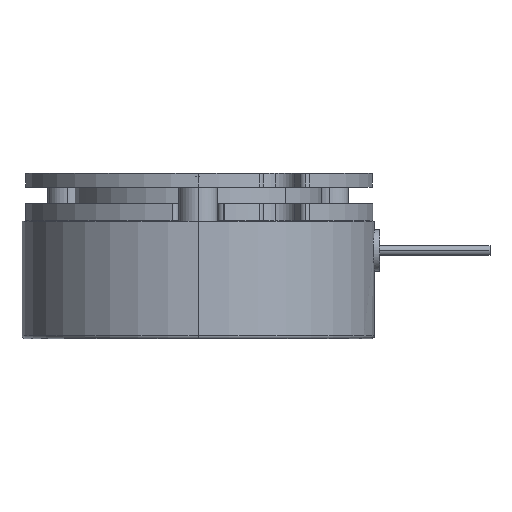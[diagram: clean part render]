
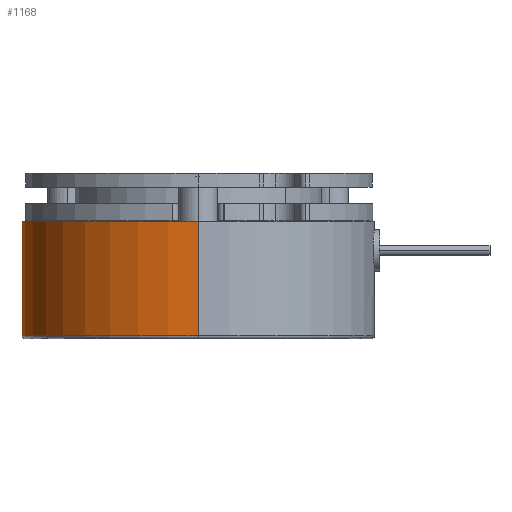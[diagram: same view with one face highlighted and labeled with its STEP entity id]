
A CAD part, left-side view. The second image highlights one B-rep face of the part: STEP entity #1168.
In plain terms, the highlighted cylindrical face has radius 32 mm (diameter 64 mm), a partial arc.
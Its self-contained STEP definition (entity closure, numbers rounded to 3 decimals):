
#295 = CARTESIAN_POINT ( 'NONE',  ( -32., 0., -27. ) ) ;
#408 = CARTESIAN_POINT ( 'NONE',  ( 32., 0., -27. ) ) ;
#477 = CARTESIAN_POINT ( 'NONE',  ( -32., 0., -6.2 ) ) ;
#742 = CARTESIAN_POINT ( 'NONE',  ( 32., 0., -6.2 ) ) ;
#1019 = CYLINDRICAL_SURFACE ( 'NONE', #1998, 32. ) ;
#1036 = FACE_OUTER_BOUND ( 'NONE', #4787, .T. ) ;
#1168 = ADVANCED_FACE ( 'NONE', ( #1036 ), #1019, .T. ) ;
#1516 = VECTOR ( 'NONE', #5417, 1000. ) ;
#1533 = LINE ( 'NONE', #5413, #1516 ) ;
#1602 = VECTOR ( 'NONE', #5458, 1000. ) ;
#1610 = LINE ( 'NONE', #5459, #1602 ) ;
#1617 = CIRCLE ( 'NONE', #2844, 32. ) ;
#1640 = CIRCLE ( 'NONE', #2847, 32. ) ;
#1998 = AXIS2_PLACEMENT_3D ( 'NONE', #2540, #2539, #2531 ) ;
#2531 = DIRECTION ( 'NONE',  ( -1., 0., 0. ) ) ;
#2539 = DIRECTION ( 'NONE',  ( 0., 0., -1. ) ) ;
#2540 = CARTESIAN_POINT ( 'NONE',  ( 0., 0., -6.2 ) ) ;
#2844 = AXIS2_PLACEMENT_3D ( 'NONE', #5372, #5469, #5460 ) ;
#2847 = AXIS2_PLACEMENT_3D ( 'NONE', #4966, #4980, #4954 ) ;
#4071 = VERTEX_POINT ( 'NONE', #477 ) ;
#4164 = VERTEX_POINT ( 'NONE', #408 ) ;
#4445 = VERTEX_POINT ( 'NONE', #295 ) ;
#4619 = VERTEX_POINT ( 'NONE', #742 ) ;
#4787 = EDGE_LOOP ( 'NONE', ( #7361, #7548, #7455, #7581 ) ) ;
#4954 = DIRECTION ( 'NONE',  ( 1., 0., 0. ) ) ;
#4966 = CARTESIAN_POINT ( 'NONE',  ( 0., 0., -27. ) ) ;
#4980 = DIRECTION ( 'NONE',  ( 0., 0., 1. ) ) ;
#5372 = CARTESIAN_POINT ( 'NONE',  ( 0., 0., -6.2 ) ) ;
#5413 = CARTESIAN_POINT ( 'NONE',  ( 32., 0., -6.2 ) ) ;
#5417 = DIRECTION ( 'NONE',  ( 0., 0., -1. ) ) ;
#5458 = DIRECTION ( 'NONE',  ( 0., 0., -1. ) ) ;
#5459 = CARTESIAN_POINT ( 'NONE',  ( -32., 0., -6.2 ) ) ;
#5460 = DIRECTION ( 'NONE',  ( 1., 0., 0. ) ) ;
#5469 = DIRECTION ( 'NONE',  ( 0., 0., 1. ) ) ;
#5758 = EDGE_CURVE ( 'NONE', #4164, #4445, #1640, .T. ) ;
#5762 = EDGE_CURVE ( 'NONE', #4619, #4071, #1617, .T. ) ;
#5764 = EDGE_CURVE ( 'NONE', #4071, #4445, #1610, .T. ) ;
#5780 = EDGE_CURVE ( 'NONE', #4619, #4164, #1533, .T. ) ;
#7361 = ORIENTED_EDGE ( 'NONE', *, *, #5762, .F. ) ;
#7455 = ORIENTED_EDGE ( 'NONE', *, *, #5758, .T. ) ;
#7548 = ORIENTED_EDGE ( 'NONE', *, *, #5780, .T. ) ;
#7581 = ORIENTED_EDGE ( 'NONE', *, *, #5764, .F. ) ;
